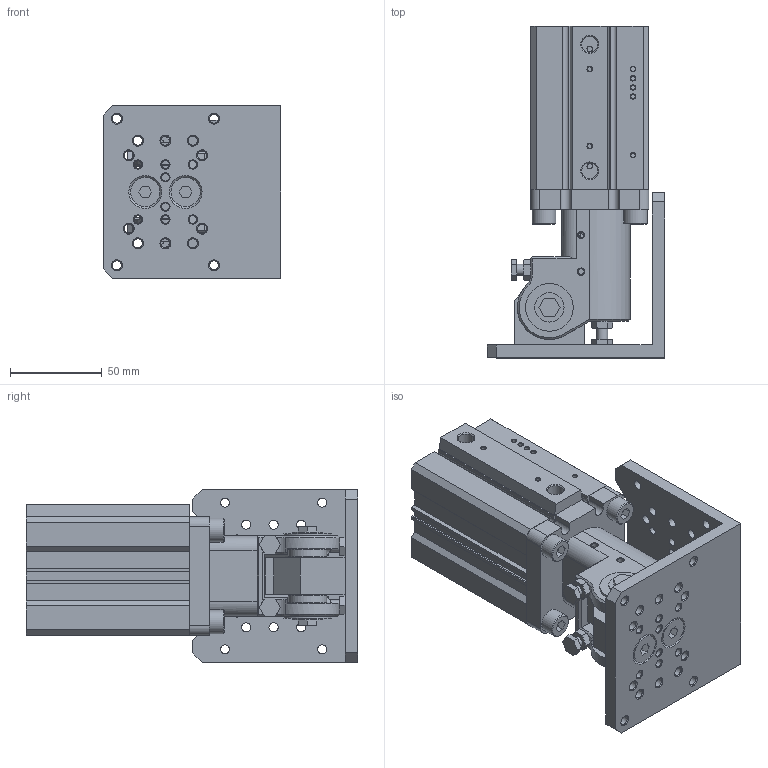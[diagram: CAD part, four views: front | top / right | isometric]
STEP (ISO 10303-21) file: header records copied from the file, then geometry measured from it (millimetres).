
FILE_DESCRIPTION(/* description */ (''),/* implementation_level */ '2;1');
FILE_NAME(/* name */ '_model1.stp',/* time_stamp */ '2023-05-31T08:53:56+08:00',/* author */ (''),/* organization */ (''),/* preprocessor_version */ 'ST-DEVELOPER v14',/* originating_system */ 'SIEMENS PLM Software NX 8.0',/* authorisation */ '');
FILE_SCHEMA (('AP203_CONFIGURATION_CONTROLLED_3D_DESIGN_OF_MECHANICAL_PARTS_AND_ASSEMBLIES_MIM_LF { 1 0 10303 403 2 1 2}'));
Length unit declared in the file: millimetre
Products named in the file (1): Admi0FF02E9Cg4fa
Bounding box: 97 x 181 x 94 mm (x, y, z)
Volume: 614889.9 mm3; surface area: 152272.1 mm2
Topology: 30 solids, 30 shells, 693 faces, 1638 edges, 1050 vertices
Faces by surface type: plane 338, cone 177, cylinder 170, bspline 6, torus 2
Full cylindrical faces by diameter (mm): 2 x4, 2.5 x7, 3 x2, 3.3 x8, 4.2 x20, 5 x38, 6 x11, 6.2 x1, 6.5 x4, 8 x6, 8.5 x2, 8.6 x6, 12 x8, 13 x4, 16 x4, 20 x1, 21 x2, 22.8 x1, 23 x1, 24 x1, 26 x2, 28 x1, 38 x2, 38.5 x1, 52 x2, 54 x2
Entity records: 19657 total; most frequent: CARTESIAN_POINT 4738, DIRECTION 3038, ORIENTED_EDGE 2604, EDGE_CURVE 1302, AXIS2_PLACEMENT_3D 1191, EDGE_LOOP 1158, VERTEX_POINT 970, FACE_BOUND 797
